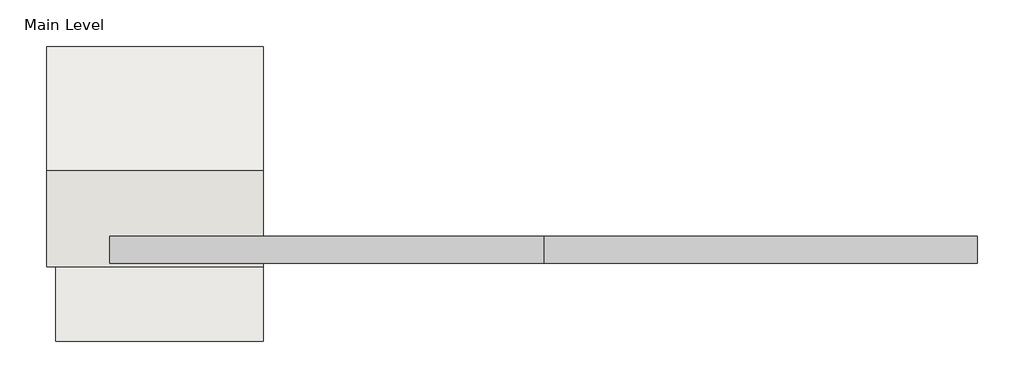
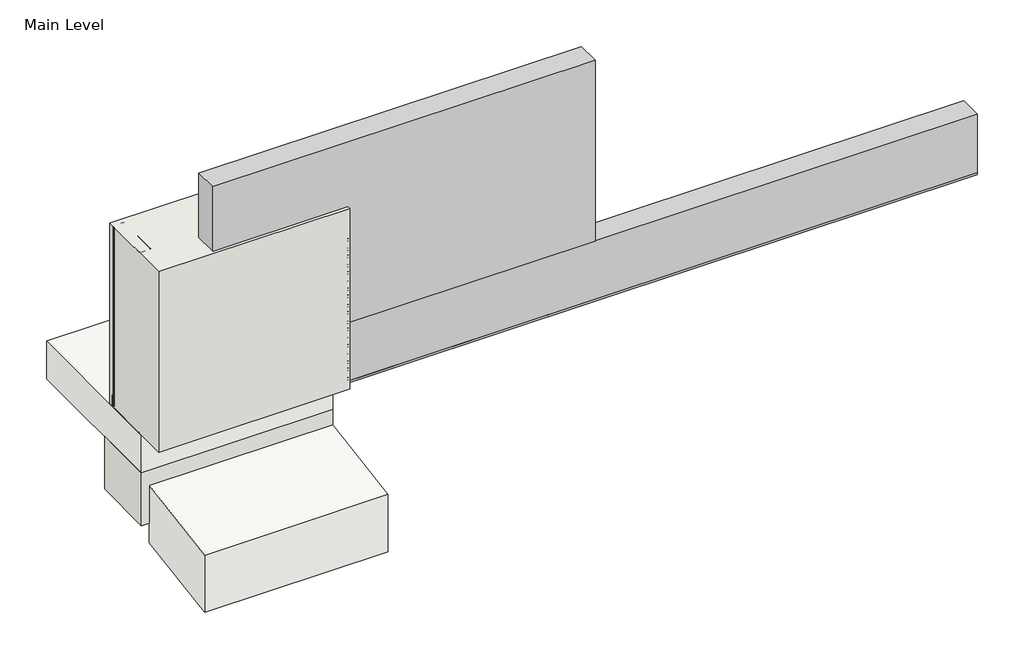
# One storey, incomplete: 6 proxies, 2 slabs, 2 walls.
"""IFC4 building model written with IfcOpenShell, lengths in millimetres."""

from ifc_helpers import new_model, si_unit, frame, origin, origin_with_axes, place, context, project, spatial, polyline, outline, extrude, transform, mapped, element, save
from components import generic_models_31547c53, generic_models_0bbfdc8f, generic_models_1e1ad44f, generic_models_7dd17a53, generic_models_441de798, generic_models_9d0e7a2a, proxy_81afb05a, proxy_e5e434bb, wood_blocking_c9818c35

model = new_model("IFC4")

# Units and contexts
model_context = context("Model", 3, world=origin())
ifc_project = project(units=[si_unit("LENGTHUNIT", "METRE", prefix="MILLI")], contexts=[model_context])

# Site, building, storey
site = spatial("IfcSite", under=ifc_project)
building = spatial("IfcBuilding", under=site)
storey = spatial("IfcBuildingStorey", under=building, Name="Main Level", Elevation=0.0)

# Proxies
placement = place(None, origin())
generic_models_shape = generic_models_31547c53(model_context)
element("IfcBuildingElementProxy", 1, Name="Durabond Generic Model Sealant Vent : Durabond Generic Model Sealant Vent", ObjectType="Durabond Generic Model Sealant Vent : Durabond Generic Model Sealant Vent", at=placement, inside=storey, context=model_context, shape_type="MappedRepresentation", body=[
    mapped(generic_models_shape, transform((26865.4101773, 546.8432813, 8.5594788), x_axis=(1.0, 0.0, 0.0), y_axis=(0.0, 0.08715574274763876, -0.9961946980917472), z_axis=(0.0, 0.9961946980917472, 0.08715574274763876))),
])
generic_models_2_shape = generic_models_0bbfdc8f(model_context)
generic_models_3_shape = generic_models_1e1ad44f(model_context)
generic_models_4_shape = generic_models_7dd17a53(model_context)
generic_models_5_shape = generic_models_441de798(model_context)
element("IfcBuildingElementProxy", 2, Name="CRAi Generic Model Mesh Piece Face Based : CRAi Generic Model Mesh Piece Face Based", ObjectType="CRAi Generic Model Mesh Piece Face Based : CRAi Generic Model Mesh Piece Face Based", at=placement, inside=storey, context=model_context, shape_type="MappedRepresentation", body=[
    mapped(generic_models_2_shape, transform((26933.6726773, 541.9066297, 261.6963215), x_axis=(-1.0, 0.0, 0.0), y_axis=(0.0, 0.0, -1.0), z_axis=(0.0, -1.0, 0.0))),
    mapped(generic_models_3_shape, transform((26933.6726773, 541.9066297, 261.6963215), x_axis=(-1.0, 0.0, 0.0), y_axis=(0.0, 0.0, -1.0), z_axis=(0.0, -1.0, 0.0))),
    mapped(generic_models_4_shape, transform((26933.6726773, 541.9066297, 261.6963215), x_axis=(-1.0, 0.0, 0.0), y_axis=(0.0, 0.0, -1.0), z_axis=(0.0, -1.0, 0.0))),
    mapped(generic_models_5_shape, transform((26933.6726773, 541.9066297, 261.6963215), x_axis=(-1.0, 0.0, 0.0), y_axis=(0.0, 0.0, -1.0), z_axis=(0.0, -1.0, 0.0))),
])
generic_models_6_shape = generic_models_9d0e7a2a(model_context)
element("IfcBuildingElementProxy", 3, Name="CRAi Generic Model Metal Stud Array : CRAi Generic Model Metal Stud Array", ObjectType="CRAi Generic Model Metal Stud Array : CRAi Generic Model Metal Stud Array", at=placement, inside=storey, context=model_context, shape_type="MappedRepresentation", body=[
    mapped(generic_models_6_shape, transform((26692.3726773, 719.7066297, 6.35), x_axis=(-1.0, 0.0, 0.0), y_axis=(0.0, -1.0, 0.0), z_axis=(0.0, 0.0, 1.0))),
])
proxy_shape = proxy_81afb05a(model_context)
element("IfcBuildingElementProxy", 4, Name="Durabond Generic Model Equalite Insulation Board : 3\"", ObjectType="Durabond Generic Model Equalite Insulation Board : 3\"", at=placement, inside=storey, context=model_context, shape_type="MappedRepresentation", body=[
    mapped(proxy_shape, transform((27276.5726773, 624.4566297, 523.392643), x_axis=(1.0, 0.0, 0.0), y_axis=(0.0, 0.0, 1.0), z_axis=(0.0, -1.0, 0.0))),
])
proxy_2_shape = proxy_e5e434bb(model_context)
element("IfcBuildingElementProxy", 5, Name="Durabond Generic Model Equalite Vent Board : 3\"", ObjectType="Durabond Generic Model Equalite Vent Board : 3\"", at=placement, inside=storey, context=model_context, shape_type="MappedRepresentation", body=[
    mapped(proxy_2_shape, transform((27886.1726773, 624.4566297, 116.992643), x_axis=(1.0, 0.0, 0.0), y_axis=(0.0, 0.0, 1.0), z_axis=(0.0, -1.0, 0.0))),
])
wood_blocking_shape = wood_blocking_c9818c35(model_context)
element("IfcBuildingElementProxy", 6, Name="CRAi Generic Model Line Based Metal Framing Track : Wood Blocking", ObjectType="CRAi Generic Model Line Based Metal Framing Track : Wood Blocking", at=placement, inside=storey, context=model_context, shape_type="MappedRepresentation", body=[
    mapped(wood_blocking_shape, transform((26489.1726773, 643.5066297, 0.0), x_axis=(1.0, 0.0, 0.0), y_axis=(0.0, 1.0, 0.0), z_axis=(0.0, 0.0, 1.0))),
])

# Slabs
element("IfcSlab", 7, ObjectType="Durabond Floor Concrete 5\"", at=placement, inside=storey, context=model_context, shape_type="SweptSolid", body=[
    extrude(outline(polyline([(27098.7726773, 633.9816297), (26489.1726773, 633.9816297), (26489.1726773, 1157.8566297), (27098.7726773, 1157.8566297), (27098.7726773, 633.9816297)])), frame((0.0, 0.0, -127.0), z_axis=(0.0, 0.0, 1.0), x_axis=(1.0, 0.0, 0.0)), (0.0, 0.0, 1.0), 127.0),
])
element("IfcSlab", 8, ObjectType="dIRT", at=placement, inside=storey, context=model_context, shape_type="SweptSolid", body=[
    extrude(outline(polyline([(633.9816297, -370.9277103), (329.1816297, -421.7277103), (329.1816297, -228.6), (633.9816297, -177.8), (633.9816297, -370.9277103)])), frame((26514.5726773, 0.0, 0.0), z_axis=(1.0, 0.0, 0.0), x_axis=(0.0, 1.0, 0.0)), (0.0, 0.0, 1.0), 584.2),
])

# Walls
element("IfcWall", 9, ObjectType="189mm (7.5”) EIFS Field Applied on Mtl. Stud Layer - 50mm Grooved Insulation Board Metal Stud Wall(AirStop) 2", at=placement, inside=storey, context=model_context, shape_type="SweptSolid", body=[
    extrude(outline(polyline([(27098.7726773, 538.7316297), (26489.1726773, 538.7316297), (26489.1726773, 808.6066297), (27098.7726773, 808.6066297), (27098.7726773, 538.7316297)])), origin_with_axes(), (0.0, 0.0, 1.0), 609.6),
])
element("IfcWall", 10, ObjectType="CRAi Generic 8\"", at=placement, inside=storey, context=model_context, shape_type="SweptSolid", body=[
    extrude(outline(polyline([(27098.7726773, 633.9816297), (26489.1726773, 633.9816297), (26489.1726773, 837.1816297), (27098.7726773, 837.1816297), (27098.7726773, 633.9816297)])), frame((0.0, 0.0, -304.8), z_axis=(0.0, 0.0, 1.0), x_axis=(1.0, 0.0, 0.0)), (0.0, 0.0, 1.0), 177.8),
])

save(model, "model.ifc")
